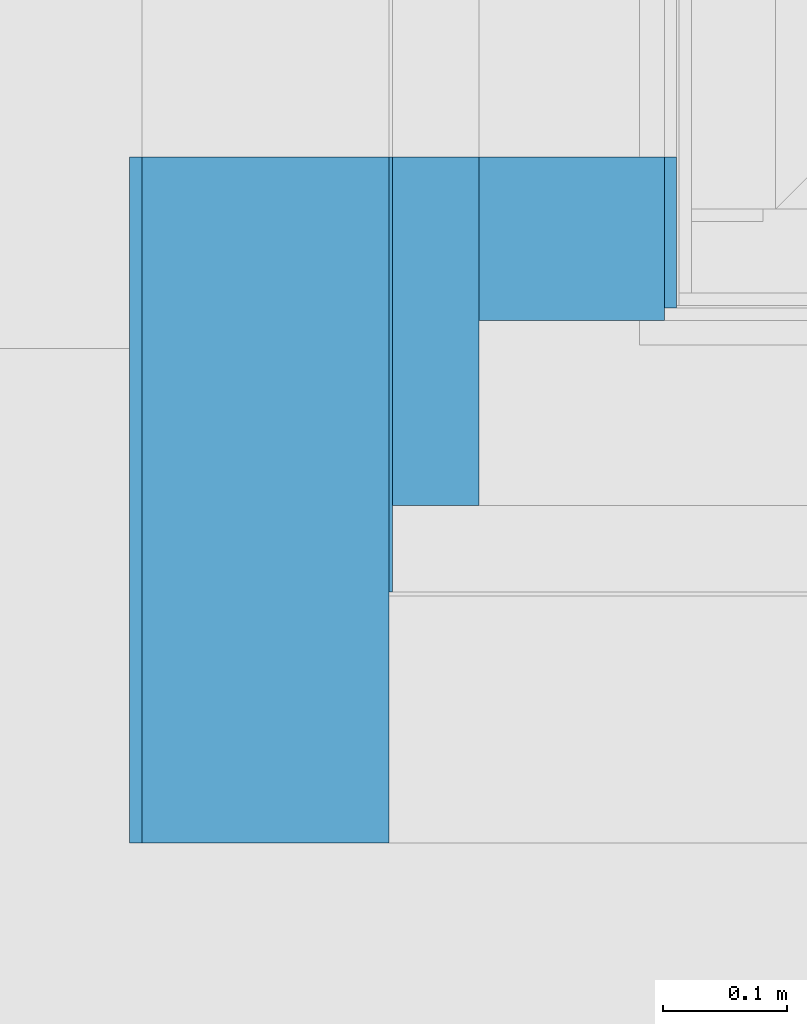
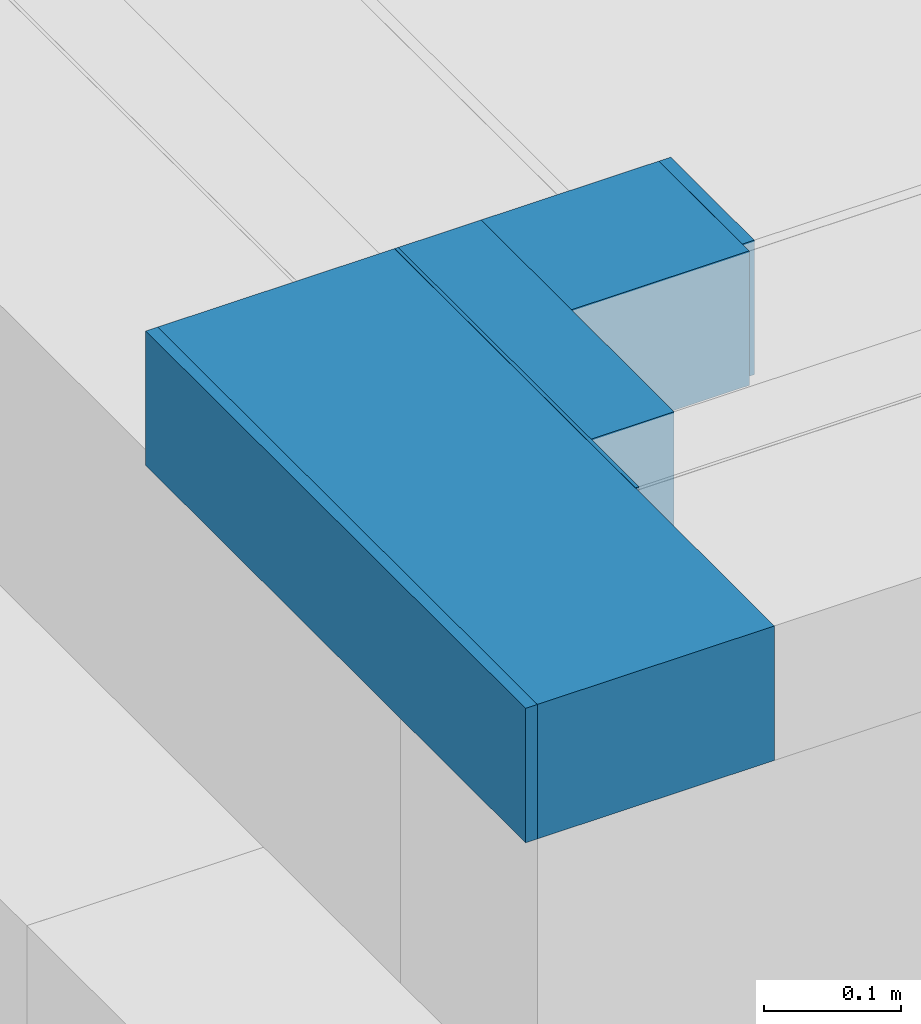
# One storey, part 15 of 17: 6 building element parts, 1 element without a shape of its own.
"""IFC2X3 building model written with IfcOpenShell, lengths in millimetres."""

from ifc_helpers import new_model, entity, si_unit, converted_unit, derived_unit, money_unit, direction, frame, origin_with_axes, place, context, subcontext, project, spatial, faceted_brep, material, type_object, element, aggregate, save


model = new_model("IFC2X3")

# Units and contexts
model_context = context("Model", 3, precision=0.01, world=origin_with_axes(), true_north=direction((0.0, 1.0)))
body_context = subcontext(model_context, "Body", "Model", "MODEL_VIEW")
ifc_project = project(units=[si_unit("LENGTHUNIT", "METRE", prefix="MILLI"), si_unit("AREAUNIT", "SQUARE_METRE"), si_unit("VOLUMEUNIT", "CUBIC_METRE"), converted_unit("PLANEANGLEUNIT", "DEGREE", entity("IfcPlaneAngleMeasure", 0.0174532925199), si_unit("PLANEANGLEUNIT", "RADIAN"), dimensions=[0, 0, 0, 0, 0, 0, 0]), money_unit("EUR"), converted_unit("TIMEUNIT", "Year", entity("IfcTimeMeasure", 31556926.0), si_unit("TIMEUNIT", "SECOND"), dimensions=[0, 0, 1, 0, 0, 0, 0]), si_unit("MASSUNIT", "GRAM", prefix="KILO"), si_unit("THERMODYNAMICTEMPERATUREUNIT", "DEGREE_CELSIUS"), si_unit("LUMINOUSINTENSITYUNIT", "LUMEN"), si_unit("ENERGYUNIT", "JOULE", prefix="MEGA"), derived_unit("THERMALCONDUCTANCEUNIT", [(si_unit("POWERUNIT", "WATT"), 1), (si_unit("LENGTHUNIT", "METRE"), -1), (si_unit("THERMODYNAMICTEMPERATUREUNIT", "KELVIN"), -1)]), derived_unit("SPECIFICHEATCAPACITYUNIT", [(si_unit("ENERGYUNIT", "JOULE"), 1), (si_unit("MASSUNIT", "GRAM", prefix="KILO"), -1), (si_unit("THERMODYNAMICTEMPERATUREUNIT", "KELVIN"), -1)]), derived_unit("MASSDENSITYUNIT", [(si_unit("MASSUNIT", "GRAM", prefix="KILO"), 1), (si_unit("VOLUMEUNIT", "CUBIC_METRE"), -1)])], contexts=[model_context])

# Site, building, storey
site_placement = place(None, origin_with_axes())
site = spatial("IfcSite", under=ifc_project, at=site_placement, Name="Kolde pst 67a", CompositionType="ELEMENT")
building_placement = place(site_placement, origin_with_axes())
building = spatial("IfcBuilding", under=site, at=building_placement, Name="Riigigümnaasium", CompositionType="ELEMENT")
storey_placement = place(building_placement, frame((0.0, 0.0, -1500.0), z_axis=(0.0, 0.0, 1.0), x_axis=(1.0, 0.0, 0.0)))
storey = spatial("IfcBuildingStorey", under=building, at=storey_placement, Name="Vundament", CompositionType="ELEMENT", Elevation=-1500.0)

# Wall, building element parts
wall_type = type_object("IfcWallType", Name="VS-RB-20/2_sokkel  443", PredefinedType="NOTDEFINED")
wall_placement = place(storey_placement, frame((60439.9941222, 36439.9996998, 1480.0), z_axis=(0.0, 0.0, 1.0), x_axis=(0.0, 1.0, 0.0)))
wall = element("IfcWall", 1, at=wall_placement, inside=storey, type_object=wall_type, Name="Sokkel")
ifc_material_1 = material(Name="_VIIMISTLUSKIHT - viimistlus vastavalt SA osale")
building_element_part_1_placement = place(wall_placement, origin_with_axes())
building_element_part_1 = element("IfcBuildingElementPart", 2, at=building_element_part_1_placement, material=ifc_material_1, Name="_VIIMISTLUSKIHT - viimistlus vastavalt SA osale", context=body_context, shape_type="Brep", body=[
    faceted_brep([(355.167306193, 210.0, 0.0), (355.167306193, 200.0, 0.0), (-200.0, 200.0, 0.0), (-200.0, 210.0, 0.0), (355.167306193, 210.0, 120.0), (355.167306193, 200.0, 120.0), (-200.0, 200.0, 120.0), (-200.0, 210.0, 120.0)], [[[0, 1, 2, 3]], [[0, 4, 5, 1]], [[1, 5, 6, 2]], [[3, 2, 6, 7]], [[4, 0, 3, 7]], [[5, 4, 7, 6]]]),
])
ifc_material_2 = material(Name="_KANDETARIND - monteeritav raudbetoon vastavalt EK osale")
building_element_part_2_placement = place(wall_placement, origin_with_axes())
building_element_part_2 = element("IfcBuildingElementPart", 3, at=building_element_part_2_placement, material=ifc_material_2, Name="_KANDETARIND - monteeritav raudbetoon vastavalt EK osale", context=body_context, shape_type="Brep", body=[
    faceted_brep([(355.167306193, 200.0, 0.0), (355.167306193, 0.0, 0.0), (-200.0, 0.0, 0.0), (-200.0, 200.0, 0.0), (355.167306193, 200.0, 120.0), (355.167306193, 0.0, 120.0), (-200.0, 0.0, 120.0), (-200.0, 200.0, 120.0)], [[[0, 1, 2, 3]], [[0, 4, 5, 1]], [[1, 5, 6, 2]], [[3, 2, 6, 7]], [[4, 0, 3, 7]], [[5, 4, 7, 6]]]),
])
ifc_material_3 = material(Name="_HÜDROISOLATSIOON - 3x SBS rullmaterjal vastavalt TL2 nõuetele, nakke tugevduseks betoonpind eelnevalt katta hüdroisolatsiooni bituumenvõõbaga")
building_element_part_3_placement = place(wall_placement, origin_with_axes())
building_element_part_3 = element("IfcBuildingElementPart", 4, at=building_element_part_3_placement, material=ifc_material_3, Name="_HÜDROISOLATSIOON - 3x SBS rullmaterjal vastavalt TL2 nõuetele, nakke tugevduseks betoonpind eelnevalt katta hüdroisolatsiooni bituumenvõõbaga", context=body_context, shape_type="Brep", body=[
    faceted_brep([(355.167306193, 0.0, 0.0), (355.167306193, -3.0, 0.0), (3.0, -3.0, 0.0), (3.0, 0.0, 0.0), (355.167306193, 0.0, 120.0), (355.167306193, -3.0, 120.0), (3.0, -3.0, 120.0), (3.0, 0.0, 120.0)], [[[0, 1, 2, 3]], [[0, 4, 5, 1]], [[1, 5, 6, 2]], [[3, 2, 6, 7]], [[4, 0, 3, 7]], [[5, 4, 7, 6]]]),
])
ifc_material_4 = material(Name="_SOOJUSTUS - ekstrudeeritud polüstüreenist plaadid XPS 250, survetugevus min 250kPa, soojuserijuhtivus λD<0,036 W/(mK), veeimavus alla 0,2%, näiteks XPS 250 foam SL või samaväärne")
building_element_part_4_placement = place(wall_placement, origin_with_axes())
building_element_part_4 = element("IfcBuildingElementPart", 5, at=building_element_part_4_placement, material=ifc_material_4, Name="_SOOJUSTUS - ekstrudeeritud polüstüreenist plaadid XPS 250, survetugevus min 250kPa, soojuserijuhtivus λD<0,036 W/(mK), veeimavus alla 0,2%, näiteks XPS 250 foam SL või samaväärne", context=body_context, shape_type="Brep", body=[
    faceted_brep([(355.167306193, -3.0, 0.0), (355.167306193, -73.0, 0.0), (73.0, -73.0, 0.0), (73.0, -3.0, 0.0), (355.167306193, -3.0, 120.0), (355.167306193, -73.0, 120.0), (73.0, -73.0, 120.0), (73.0, -3.0, 120.0)], [[[0, 1, 2, 3]], [[0, 4, 5, 1]], [[1, 5, 6, 2]], [[3, 2, 6, 7]], [[4, 0, 3, 7]], [[5, 4, 7, 6]]]),
])
ifc_material_5 = material(Name="_SOOJUSTUS - vahtpolüstüreenplaadid EPS 120 Perimeeter, survetugevus min 120kPa, veeimavus <2%, soojuserijuhtivus λD<0,036 W/(mK)")
building_element_part_5_placement = place(wall_placement, origin_with_axes())
building_element_part_5 = element("IfcBuildingElementPart", 6, at=building_element_part_5_placement, material=ifc_material_5, Name="_SOOJUSTUS - vahtpolüstüreenplaadid EPS 120 Perimeeter, survetugevus min 120kPa, veeimavus <2%, soojuserijuhtivus λD<0,036 W/(mK)", context=body_context, shape_type="Brep", body=[
    faceted_brep([(355.167306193, -73.0, 0.0), (355.167306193, -223.0, 0.0), (223.0, -223.0, 0.0), (223.0, -73.0, 0.0), (355.167306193, -73.0, 120.0), (355.167306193, -223.0, 120.0), (223.0, -223.0, 120.0), (223.0, -73.0, 120.0)], [[[0, 1, 2, 3]], [[0, 4, 5, 1]], [[1, 5, 6, 2]], [[3, 2, 6, 7]], [[4, 0, 3, 7]], [[5, 4, 7, 6]]]),
])
ifc_material_6 = material(Name="_TUULETÕKE - sokli krohv, silikoonvaikkrohv Weber.pas 481 AquaBalance 1mm \"scratch\" viimistlus, toon helehall CL444 (S 3502-Y) * 35, SILS süsteem, või samaväärne")
building_element_part_6_placement = place(wall_placement, origin_with_axes())
building_element_part_6 = element("IfcBuildingElementPart", 7, at=building_element_part_6_placement, material=ifc_material_6, Name="_TUULETÕKE - sokli krohv, silikoonvaikkrohv Weber.pas 481 AquaBalance 1mm \"scratch\" viimistlus, toon helehall CL444 (S 3502-Y) * 35, SILS süsteem, või samaväärne", context=body_context, shape_type="Brep", body=[
    faceted_brep([(355.167306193, -223.0, 0.0), (355.167306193, -233.0, 0.0), (233.0, -233.0, 0.0), (233.0, -223.0, 0.0), (355.167306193, -223.0, 120.0), (355.167306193, -233.0, 120.0), (233.0, -233.0, 120.0), (233.0, -223.0, 120.0)], [[[0, 1, 2, 3]], [[0, 4, 5, 1]], [[1, 5, 6, 2]], [[3, 2, 6, 7]], [[4, 0, 3, 7]], [[5, 4, 7, 6]]]),
])
aggregate(wall, [building_element_part_1, building_element_part_2, building_element_part_3, building_element_part_4, building_element_part_5, building_element_part_6])

save(model, "model.ifc")
